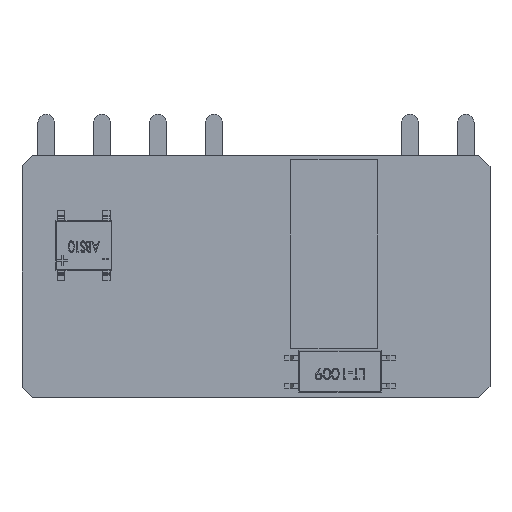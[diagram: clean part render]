
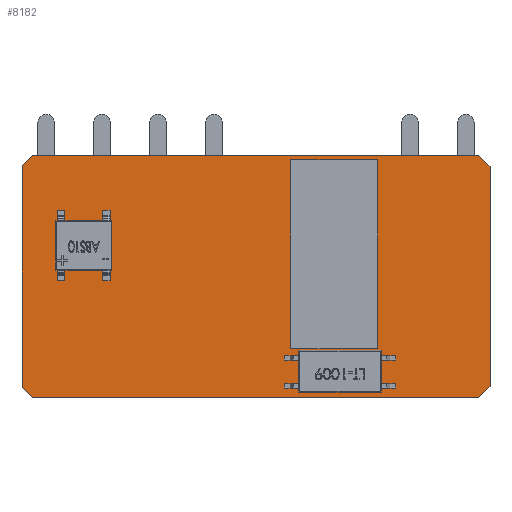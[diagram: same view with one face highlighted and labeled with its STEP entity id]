
A CAD part, front view. The second image highlights one B-rep face of the part: STEP entity #8182.
In plain terms, the highlighted planar face has unit normal (0, -1, 0).
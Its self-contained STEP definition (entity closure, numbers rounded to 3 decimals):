
#125 = VERTEX_POINT ( 'NONE', #3108 ) ;
#137 = VERTEX_POINT ( 'NONE', #3134 ) ;
#139 = VERTEX_POINT ( 'NONE', #3135 ) ;
#149 = VERTEX_POINT ( 'NONE', #3124 ) ;
#157 = VERTEX_POINT ( 'NONE', #3138 ) ;
#159 = VERTEX_POINT ( 'NONE', #3107 ) ;
#167 = VERTEX_POINT ( 'NONE', #3115 ) ;
#169 = VERTEX_POINT ( 'NONE', #3131 ) ;
#3107 = CARTESIAN_POINT ( 'NONE',  ( 0.975, -0.5, -22. ) ) ;
#3108 = CARTESIAN_POINT ( 'NONE',  ( 41.5, -0.5, 0. ) ) ;
#3115 = CARTESIAN_POINT ( 'NONE',  ( 0., -0.5, -20.974 ) ) ;
#3124 = CARTESIAN_POINT ( 'NONE',  ( 0., -0.5, -1. ) ) ;
#3131 = CARTESIAN_POINT ( 'NONE',  ( 0.976, -0.5, 0. ) ) ;
#3134 = CARTESIAN_POINT ( 'NONE',  ( 41.5, -0.5, -22. ) ) ;
#3135 = CARTESIAN_POINT ( 'NONE',  ( 42.5, -0.5, -1. ) ) ;
#3138 = CARTESIAN_POINT ( 'NONE',  ( 42.5, -0.5, -21. ) ) ;
#4181 = ORIENTED_EDGE ( 'NONE', *, *, #7443, .F. ) ;
#4193 = ORIENTED_EDGE ( 'NONE', *, *, #7392, .F. ) ;
#4195 = ORIENTED_EDGE ( 'NONE', *, *, #7449, .F. ) ;
#4198 = ORIENTED_EDGE ( 'NONE', *, *, #7437, .F. ) ;
#4207 = ORIENTED_EDGE ( 'NONE', *, *, #7411, .F. ) ;
#4212 = ORIENTED_EDGE ( 'NONE', *, *, #7402, .F. ) ;
#4248 = ORIENTED_EDGE ( 'NONE', *, *, #7381, .F. ) ;
#4293 = ORIENTED_EDGE ( 'NONE', *, *, #7410, .F. ) ;
#6781 = EDGE_LOOP ( 'NONE', ( #4212, #4193, #4198, #4207, #4293, #4195, #4248, #4181 ) ) ;
#7331 = AXIS2_PLACEMENT_3D ( 'NONE', #16598, #16624, #16589 ) ;
#7381 = EDGE_CURVE ( 'NONE', #149, #169, #14556, .T. ) ;
#7392 = EDGE_CURVE ( 'NONE', #137, #159, #14600, .T. ) ;
#7402 = EDGE_CURVE ( 'NONE', #159, #167, #14585, .T. ) ;
#7410 = EDGE_CURVE ( 'NONE', #125, #139, #14615, .T. ) ;
#7411 = EDGE_CURVE ( 'NONE', #139, #157, #14610, .T. ) ;
#7437 = EDGE_CURVE ( 'NONE', #157, #137, #14663, .T. ) ;
#7443 = EDGE_CURVE ( 'NONE', #167, #149, #14665, .T. ) ;
#7449 = EDGE_CURVE ( 'NONE', #169, #125, #14714, .T. ) ;
#8182 = ADVANCED_FACE ( 'NONE', ( #15268 ), #16633, .T. ) ;
#14556 = LINE ( 'NONE', #15691, #14566 ) ;
#14566 = VECTOR ( 'NONE', #15706, 1000. ) ;
#14585 = LINE ( 'NONE', #15742, #14590 ) ;
#14590 = VECTOR ( 'NONE', #15740, 1000. ) ;
#14600 = LINE ( 'NONE', #15734, #14603 ) ;
#14603 = VECTOR ( 'NONE', #15765, 1000. ) ;
#14610 = LINE ( 'NONE', #15802, #14641 ) ;
#14615 = LINE ( 'NONE', #15774, #14618 ) ;
#14618 = VECTOR ( 'NONE', #15772, 1000. ) ;
#14641 = VECTOR ( 'NONE', #15777, 1000. ) ;
#14663 = LINE ( 'NONE', #15847, #14664 ) ;
#14664 = VECTOR ( 'NONE', #15826, 1000. ) ;
#14665 = LINE ( 'NONE', #15835, #14680 ) ;
#14680 = VECTOR ( 'NONE', #15827, 1000. ) ;
#14714 = LINE ( 'NONE', #15874, #14737 ) ;
#14737 = VECTOR ( 'NONE', #15878, 1000. ) ;
#15268 = FACE_OUTER_BOUND ( 'NONE', #6781, .T. ) ;
#15691 = CARTESIAN_POINT ( 'NONE',  ( 0., -0.5, -1. ) ) ;
#15706 = DIRECTION ( 'NONE',  ( 0.698, 0., 0.716 ) ) ;
#15734 = CARTESIAN_POINT ( 'NONE',  ( 41.5, -0.5, -22. ) ) ;
#15740 = DIRECTION ( 'NONE',  ( -0.689, 0., 0.725 ) ) ;
#15742 = CARTESIAN_POINT ( 'NONE',  ( 0.975, -0.5, -22. ) ) ;
#15765 = DIRECTION ( 'NONE',  ( -1., 0., 0. ) ) ;
#15772 = DIRECTION ( 'NONE',  ( 0.707, 0., -0.707 ) ) ;
#15774 = CARTESIAN_POINT ( 'NONE',  ( 41.5, -0.5, 0. ) ) ;
#15777 = DIRECTION ( 'NONE',  ( 0., 0., -1. ) ) ;
#15802 = CARTESIAN_POINT ( 'NONE',  ( 42.5, -0.5, -1. ) ) ;
#15826 = DIRECTION ( 'NONE',  ( -0.707, 0., -0.707 ) ) ;
#15827 = DIRECTION ( 'NONE',  ( 0., 0., 1. ) ) ;
#15835 = CARTESIAN_POINT ( 'NONE',  ( 0., -0.5, -20.974 ) ) ;
#15847 = CARTESIAN_POINT ( 'NONE',  ( 42.5, -0.5, -21. ) ) ;
#15874 = CARTESIAN_POINT ( 'NONE',  ( 0.976, -0.5, 0. ) ) ;
#15878 = DIRECTION ( 'NONE',  ( 1., 0., 0. ) ) ;
#16589 = DIRECTION ( 'NONE',  ( 0., 0., -1. ) ) ;
#16598 = CARTESIAN_POINT ( 'NONE',  ( 0., -0.5, 0. ) ) ;
#16624 = DIRECTION ( 'NONE',  ( 0., -1., 0. ) ) ;
#16633 = PLANE ( 'NONE',  #7331 ) ;
